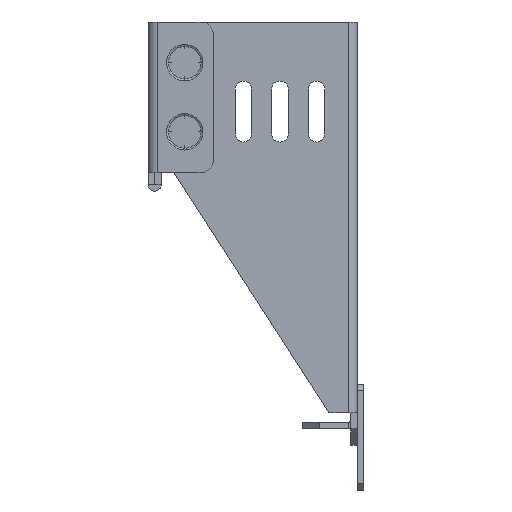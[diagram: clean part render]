
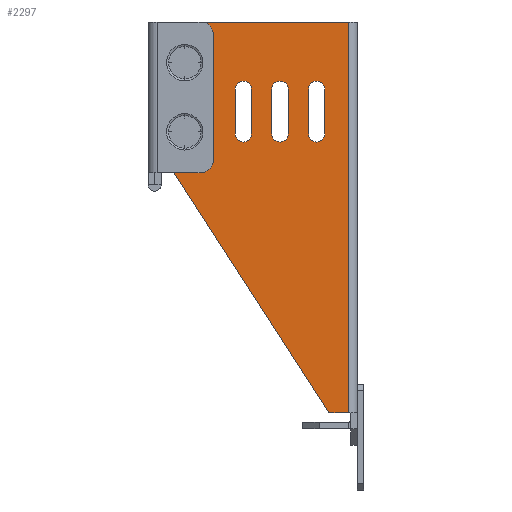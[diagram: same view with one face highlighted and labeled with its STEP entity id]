
A CAD part, left-side view. The second image highlights one B-rep face of the part: STEP entity #2297.
In plain terms, the highlighted planar face has unit normal (-1, 0, 0).
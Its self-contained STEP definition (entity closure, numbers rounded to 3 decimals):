
#497=DIRECTION('',(0.,1.,0.));
#498=VECTOR('',#497,46.2);
#499=CARTESIAN_POINT('',(-92.2,2.2,100.));
#500=LINE('',#499,#498);
#501=DIRECTION('',(0.,-1.,0.));
#502=VECTOR('',#501,4.8);
#503=CARTESIAN_POINT('',(-92.2,7.,4.));
#504=LINE('',#503,#502);
#505=DIRECTION('',(0.,-0.543,-0.84));
#506=VECTOR('',#505,72.618);
#507=CARTESIAN_POINT('',(-92.2,46.4,65.));
#508=LINE('',#507,#506);
#509=DIRECTION('',(0.,-1.,0.));
#510=VECTOR('',#509,2.);
#511=CARTESIAN_POINT('',(-92.2,48.4,65.));
#512=LINE('',#511,#510);
#513=DIRECTION('',(0.,0.,-1.));
#514=VECTOR('',#513,35.);
#515=CARTESIAN_POINT('',(-92.2,48.4,100.));
#516=LINE('',#515,#514);
#517=CARTESIAN_POINT('',(-92.2,10.,72.5));
#518=DIRECTION('',(-1.,0.,0.));
#519=DIRECTION('',(0.,1.,0.));
#520=AXIS2_PLACEMENT_3D('',#517,#518,#519);
#522=DIRECTION('',(0.,0.,-1.));
#523=VECTOR('',#522,11.);
#524=CARTESIAN_POINT('',(-92.2,8.,83.5));
#525=LINE('',#524,#523);
#526=CARTESIAN_POINT('',(-92.2,10.,83.5));
#527=DIRECTION('',(-1.,0.,0.));
#528=DIRECTION('',(0.,-1.,0.));
#529=AXIS2_PLACEMENT_3D('',#526,#527,#528);
#531=DIRECTION('',(0.,0.,1.));
#532=VECTOR('',#531,11.);
#533=CARTESIAN_POINT('',(-92.2,12.,72.5));
#534=LINE('',#533,#532);
#535=CARTESIAN_POINT('',(-92.2,19.,72.5));
#536=DIRECTION('',(-1.,0.,0.));
#537=DIRECTION('',(0.,1.,0.));
#538=AXIS2_PLACEMENT_3D('',#535,#536,#537);
#540=DIRECTION('',(0.,0.,-1.));
#541=VECTOR('',#540,11.);
#542=CARTESIAN_POINT('',(-92.2,17.,83.5));
#543=LINE('',#542,#541);
#544=CARTESIAN_POINT('',(-92.2,19.,83.5));
#545=DIRECTION('',(-1.,0.,0.));
#546=DIRECTION('',(0.,-1.,0.));
#547=AXIS2_PLACEMENT_3D('',#544,#545,#546);
#549=DIRECTION('',(0.,0.,1.));
#550=VECTOR('',#549,11.);
#551=CARTESIAN_POINT('',(-92.2,21.,72.5));
#552=LINE('',#551,#550);
#553=CARTESIAN_POINT('',(-92.2,28.,72.5));
#554=DIRECTION('',(-1.,0.,0.));
#555=DIRECTION('',(0.,1.,0.));
#556=AXIS2_PLACEMENT_3D('',#553,#554,#555);
#558=DIRECTION('',(0.,0.,-1.));
#559=VECTOR('',#558,11.);
#560=CARTESIAN_POINT('',(-92.2,26.,83.5));
#561=LINE('',#560,#559);
#562=CARTESIAN_POINT('',(-92.2,28.,83.5));
#563=DIRECTION('',(-1.,0.,0.));
#564=DIRECTION('',(0.,-1.,0.));
#565=AXIS2_PLACEMENT_3D('',#562,#563,#564);
#567=DIRECTION('',(0.,0.,1.));
#568=VECTOR('',#567,11.);
#569=CARTESIAN_POINT('',(-92.2,30.,72.5));
#570=LINE('',#569,#568);
#571=CARTESIAN_POINT('',(-92.2,42.4,90.));
#572=DIRECTION('',(1.,0.,0.));
#573=DIRECTION('',(0.,0.,1.));
#574=AXIS2_PLACEMENT_3D('',#571,#572,#573);
#576=CARTESIAN_POINT('',(-92.2,42.4,90.));
#577=DIRECTION('',(1.,0.,0.));
#578=DIRECTION('',(0.,0.,-1.));
#579=AXIS2_PLACEMENT_3D('',#576,#577,#578);
#581=CARTESIAN_POINT('',(-92.2,42.4,73.));
#582=DIRECTION('',(1.,0.,0.));
#583=DIRECTION('',(0.,0.,1.));
#584=AXIS2_PLACEMENT_3D('',#581,#582,#583);
#586=CARTESIAN_POINT('',(-92.2,42.4,73.));
#587=DIRECTION('',(1.,0.,0.));
#588=DIRECTION('',(0.,0.,-1.));
#589=AXIS2_PLACEMENT_3D('',#586,#587,#588);
#591=DIRECTION('',(0.,0.,1.));
#592=VECTOR('',#591,96.);
#593=CARTESIAN_POINT('',(-92.2,2.2,4.));
#594=LINE('',#593,#592);
#1341=CARTESIAN_POINT('',(-92.2,2.2,100.));
#1342=CARTESIAN_POINT('',(-92.2,48.4,100.));
#1343=VERTEX_POINT('',#1341);
#1344=VERTEX_POINT('',#1342);
#1345=CARTESIAN_POINT('',(-92.2,48.4,65.));
#1346=VERTEX_POINT('',#1345);
#1413=CARTESIAN_POINT('',(-92.2,12.,72.5));
#1414=CARTESIAN_POINT('',(-92.2,8.,72.5));
#1415=VERTEX_POINT('',#1413);
#1416=VERTEX_POINT('',#1414);
#1417=CARTESIAN_POINT('',(-92.2,12.,83.5));
#1418=VERTEX_POINT('',#1417);
#1419=CARTESIAN_POINT('',(-92.2,8.,83.5));
#1420=VERTEX_POINT('',#1419);
#1429=CARTESIAN_POINT('',(-92.2,21.,72.5));
#1430=CARTESIAN_POINT('',(-92.2,17.,72.5));
#1431=VERTEX_POINT('',#1429);
#1432=VERTEX_POINT('',#1430);
#1433=CARTESIAN_POINT('',(-92.2,21.,83.5));
#1434=VERTEX_POINT('',#1433);
#1435=CARTESIAN_POINT('',(-92.2,17.,83.5));
#1436=VERTEX_POINT('',#1435);
#1477=CARTESIAN_POINT('',(-92.2,7.,4.));
#1478=CARTESIAN_POINT('',(-92.2,2.2,4.));
#1479=VERTEX_POINT('',#1477);
#1480=VERTEX_POINT('',#1478);
#1493=CARTESIAN_POINT('',(-92.2,42.4,92.05));
#1494=CARTESIAN_POINT('',(-92.2,42.4,87.95));
#1495=VERTEX_POINT('',#1493);
#1496=VERTEX_POINT('',#1494);
#1501=CARTESIAN_POINT('',(-92.2,46.4,65.));
#1502=VERTEX_POINT('',#1501);
#1589=CARTESIAN_POINT('',(-92.2,30.,72.5));
#1590=CARTESIAN_POINT('',(-92.2,26.,72.5));
#1591=VERTEX_POINT('',#1589);
#1592=VERTEX_POINT('',#1590);
#1593=CARTESIAN_POINT('',(-92.2,30.,83.5));
#1594=VERTEX_POINT('',#1593);
#1595=CARTESIAN_POINT('',(-92.2,26.,83.5));
#1596=VERTEX_POINT('',#1595);
#1621=CARTESIAN_POINT('',(-92.2,42.4,75.05));
#1622=CARTESIAN_POINT('',(-92.2,42.4,70.95));
#1623=VERTEX_POINT('',#1621);
#1624=VERTEX_POINT('',#1622);
#2237=CARTESIAN_POINT('',(-92.2,0.,26.81));
#2238=DIRECTION('',(-1.,0.,0.));
#2239=DIRECTION('',(0.,0.,1.));
#2240=AXIS2_PLACEMENT_3D('',#2237,#2238,#2239);
#2241=PLANE('',#2240);
#2242=ORIENTED_EDGE('',*,*,#2227,.F.);
#2244=ORIENTED_EDGE('',*,*,#2243,.F.);
#2246=ORIENTED_EDGE('',*,*,#2245,.F.);
#2248=ORIENTED_EDGE('',*,*,#2247,.F.);
#2250=ORIENTED_EDGE('',*,*,#2249,.F.);
#2252=ORIENTED_EDGE('',*,*,#2251,.F.);
#2253=EDGE_LOOP('',(#2242,#2244,#2246,#2248,#2250,#2252));
#2254=FACE_OUTER_BOUND('',#2253,.F.);
#2256=ORIENTED_EDGE('',*,*,#2255,.T.);
#2258=ORIENTED_EDGE('',*,*,#2257,.F.);
#2260=ORIENTED_EDGE('',*,*,#2259,.T.);
#2262=ORIENTED_EDGE('',*,*,#2261,.F.);
#2263=EDGE_LOOP('',(#2256,#2258,#2260,#2262));
#2264=FACE_BOUND('',#2263,.F.);
#2266=ORIENTED_EDGE('',*,*,#2265,.T.);
#2268=ORIENTED_EDGE('',*,*,#2267,.F.);
#2270=ORIENTED_EDGE('',*,*,#2269,.T.);
#2272=ORIENTED_EDGE('',*,*,#2271,.F.);
#2273=EDGE_LOOP('',(#2266,#2268,#2270,#2272));
#2274=FACE_BOUND('',#2273,.F.);
#2276=ORIENTED_EDGE('',*,*,#2275,.T.);
#2278=ORIENTED_EDGE('',*,*,#2277,.F.);
#2280=ORIENTED_EDGE('',*,*,#2279,.T.);
#2282=ORIENTED_EDGE('',*,*,#2281,.F.);
#2283=EDGE_LOOP('',(#2276,#2278,#2280,#2282));
#2284=FACE_BOUND('',#2283,.F.);
#2286=ORIENTED_EDGE('',*,*,#2285,.F.);
#2288=ORIENTED_EDGE('',*,*,#2287,.F.);
#2289=EDGE_LOOP('',(#2286,#2288));
#2290=FACE_BOUND('',#2289,.F.);
#2292=ORIENTED_EDGE('',*,*,#2291,.F.);
#2294=ORIENTED_EDGE('',*,*,#2293,.F.);
#2295=EDGE_LOOP('',(#2292,#2294));
#2296=FACE_BOUND('',#2295,.F.);
#2297=ADVANCED_FACE('',(#2254,#2264,#2274,#2284,#2290,#2296),#2241,.T.);
#521=CIRCLE('',#520,2.);
#530=CIRCLE('',#529,2.);
#539=CIRCLE('',#538,2.);
#548=CIRCLE('',#547,2.);
#557=CIRCLE('',#556,2.);
#566=CIRCLE('',#565,2.);
#575=CIRCLE('',#574,2.05);
#580=CIRCLE('',#579,2.05);
#585=CIRCLE('',#584,2.05);
#590=CIRCLE('',#589,2.05);
#2227=EDGE_CURVE('',#1343,#1344,#500,.T.);
#2243=EDGE_CURVE('',#1480,#1343,#594,.T.);
#2245=EDGE_CURVE('',#1479,#1480,#504,.T.);
#2247=EDGE_CURVE('',#1502,#1479,#508,.T.);
#2249=EDGE_CURVE('',#1346,#1502,#512,.T.);
#2251=EDGE_CURVE('',#1344,#1346,#516,.T.);
#2255=EDGE_CURVE('',#1415,#1416,#521,.T.);
#2257=EDGE_CURVE('',#1420,#1416,#525,.T.);
#2259=EDGE_CURVE('',#1420,#1418,#530,.T.);
#2261=EDGE_CURVE('',#1415,#1418,#534,.T.);
#2265=EDGE_CURVE('',#1431,#1432,#539,.T.);
#2267=EDGE_CURVE('',#1436,#1432,#543,.T.);
#2269=EDGE_CURVE('',#1436,#1434,#548,.T.);
#2271=EDGE_CURVE('',#1431,#1434,#552,.T.);
#2275=EDGE_CURVE('',#1591,#1592,#557,.T.);
#2277=EDGE_CURVE('',#1596,#1592,#561,.T.);
#2279=EDGE_CURVE('',#1596,#1594,#566,.T.);
#2281=EDGE_CURVE('',#1591,#1594,#570,.T.);
#2285=EDGE_CURVE('',#1495,#1496,#575,.T.);
#2287=EDGE_CURVE('',#1496,#1495,#580,.T.);
#2291=EDGE_CURVE('',#1623,#1624,#585,.T.);
#2293=EDGE_CURVE('',#1624,#1623,#590,.T.);
